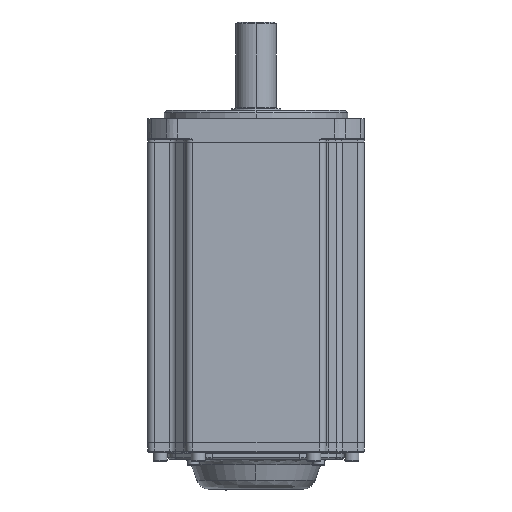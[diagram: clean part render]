
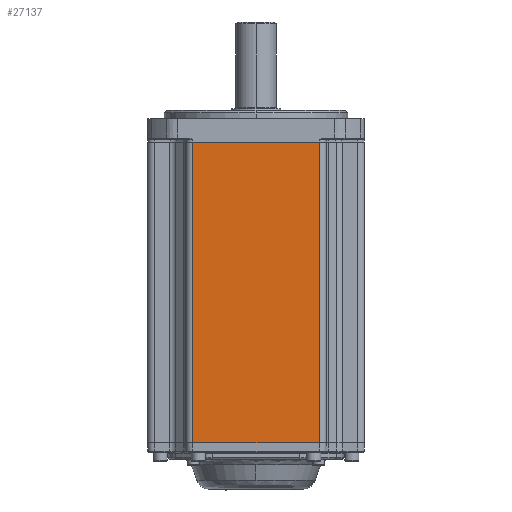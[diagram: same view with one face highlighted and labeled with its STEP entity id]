
A CAD part, front view. The second image highlights one B-rep face of the part: STEP entity #27137.
In plain terms, the highlighted planar face has unit normal (0, -1, 0).
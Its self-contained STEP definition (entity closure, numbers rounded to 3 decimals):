
#1324 = LINE ( 'NONE', #33977, #2093 ) ;
#2093 = VECTOR ( 'NONE', #15107, 1000. ) ;
#11551 = VERTEX_POINT ( 'NONE', #25440 ) ;
#14039 = ORIENTED_EDGE ( 'NONE', *, *, #39923, .F. ) ;
#15107 = DIRECTION ( 'NONE',  ( 0., 0., -1. ) ) ;
#16531 = DIRECTION ( 'NONE',  ( 1., 0., 0. ) ) ;
#16729 = CARTESIAN_POINT ( 'NONE',  ( -42., -65., 47.8 ) ) ;
#17343 = ORIENTED_EDGE ( 'NONE', *, *, #41230, .T. ) ;
#17956 = VERTEX_POINT ( 'NONE', #33934 ) ;
#18705 = VECTOR ( 'NONE', #46483, 1000. ) ;
#18786 = DIRECTION ( 'NONE',  ( 0., 1., 0. ) ) ;
#18931 = VECTOR ( 'NONE', #28143, 1000. ) ;
#20554 = LINE ( 'NONE', #16729, #52848 ) ;
#21843 = AXIS2_PLACEMENT_3D ( 'NONE', #57035, #18786, #42716 ) ;
#21865 = CARTESIAN_POINT ( 'NONE',  ( 38., -65., -132.2 ) ) ;
#25346 = CARTESIAN_POINT ( 'NONE',  ( 38., -65., 47.8 ) ) ;
#25412 = ORIENTED_EDGE ( 'NONE', *, *, #32297, .T. ) ;
#25440 = CARTESIAN_POINT ( 'NONE',  ( -38., -65., -132.2 ) ) ;
#27137 = ADVANCED_FACE ( 'NONE', ( #27309 ), #47386, .F. ) ;
#27309 = FACE_OUTER_BOUND ( 'NONE', #60325, .T. ) ;
#28143 = DIRECTION ( 'NONE',  ( 0., 0., 1. ) ) ;
#30505 = VERTEX_POINT ( 'NONE', #21865 ) ;
#31589 = VERTEX_POINT ( 'NONE', #25346 ) ;
#32297 = EDGE_CURVE ( 'NONE', #17956, #11551, #1324, .T. ) ;
#33934 = CARTESIAN_POINT ( 'NONE',  ( -38., -65., 47.8 ) ) ;
#33977 = CARTESIAN_POINT ( 'NONE',  ( -38., -65., 867.8 ) ) ;
#36208 = ORIENTED_EDGE ( 'NONE', *, *, #58238, .T. ) ;
#38171 = CARTESIAN_POINT ( 'NONE',  ( 38., -65., 867.8 ) ) ;
#39923 = EDGE_CURVE ( 'NONE', #17956, #31589, #20554, .T. ) ;
#41230 = EDGE_CURVE ( 'NONE', #30505, #31589, #56493, .T. ) ;
#42716 = DIRECTION ( 'NONE',  ( 0., 0., 1. ) ) ;
#45777 = LINE ( 'NONE', #46897, #18705 ) ;
#46483 = DIRECTION ( 'NONE',  ( 1., 0., 0. ) ) ;
#46897 = CARTESIAN_POINT ( 'NONE',  ( -42., -65., -132.2 ) ) ;
#47386 = PLANE ( 'NONE',  #21843 ) ;
#52848 = VECTOR ( 'NONE', #16531, 1000. ) ;
#56493 = LINE ( 'NONE', #38171, #18931 ) ;
#57035 = CARTESIAN_POINT ( 'NONE',  ( -42., -65., 867.8 ) ) ;
#58238 = EDGE_CURVE ( 'NONE', #11551, #30505, #45777, .T. ) ;
#60325 = EDGE_LOOP ( 'NONE', ( #14039, #25412, #36208, #17343 ) ) ;
